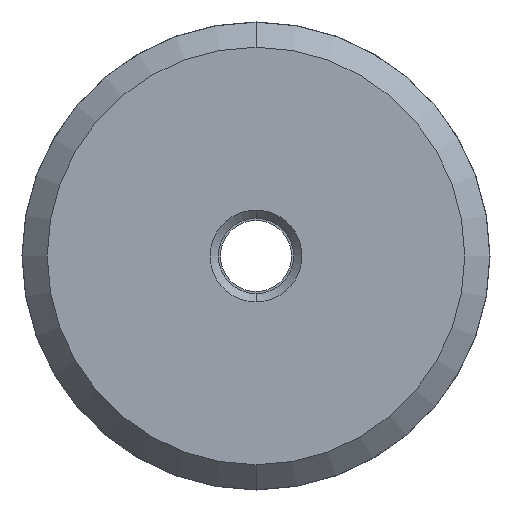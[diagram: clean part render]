
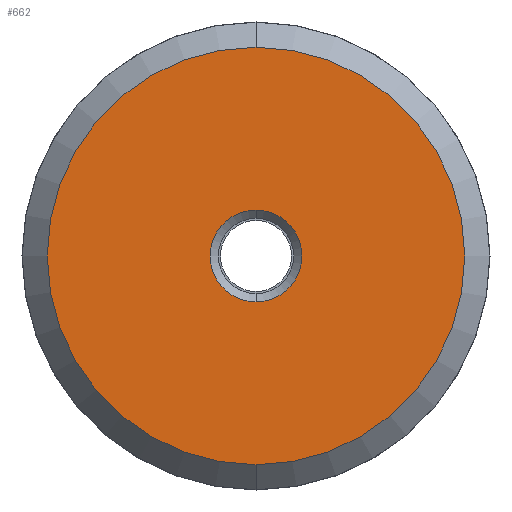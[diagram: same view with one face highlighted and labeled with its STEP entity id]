
A CAD part, front view. The second image highlights one B-rep face of the part: STEP entity #662.
In plain terms, the highlighted planar face has unit normal (0, -1, 0).
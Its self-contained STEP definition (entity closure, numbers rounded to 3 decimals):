
#558=CARTESIAN_POINT('Axis2P3D Location',(0.,0.,0.)) ;
#562=CARTESIAN_POINT('Vertex',(0.,0.,-24.975)) ;
#564=CARTESIAN_POINT('Vertex',(0.,0.,24.975)) ;
#589=CARTESIAN_POINT('Axis2P3D Location',(0.,0.,0.)) ;
#610=CARTESIAN_POINT('Vertex',(0.,0.,5.5)) ;
#617=CARTESIAN_POINT('Vertex',(0.,0.,-5.5)) ;
#620=CARTESIAN_POINT('Axis2P3D Location',(0.,0.,0.)) ;
#637=CARTESIAN_POINT('Axis2P3D Location',(0.,0.,0.)) ;
#649=CARTESIAN_POINT('Axis2P3D Location',(-16.125,0.,0.)) ;
#559=DIRECTION('Axis2P3D Direction',(0.,1.,0.)) ;
#590=DIRECTION('Axis2P3D Direction',(0.,1.,0.)) ;
#621=DIRECTION('Axis2P3D Direction',(0.,-1.,-0.)) ;
#638=DIRECTION('Axis2P3D Direction',(0.,-1.,-0.)) ;
#650=DIRECTION('Axis2P3D Direction',(0.,-1.,0.)) ;
#651=DIRECTION('Axis2P3D XDirection',(0.,0.,-1.)) ;
#560=AXIS2_PLACEMENT_3D('Circle Axis2P3D',#558,#559,$) ;
#591=AXIS2_PLACEMENT_3D('Circle Axis2P3D',#589,#590,$) ;
#622=AXIS2_PLACEMENT_3D('Circle Axis2P3D',#620,#621,$) ;
#639=AXIS2_PLACEMENT_3D('Circle Axis2P3D',#637,#638,$) ;
#652=AXIS2_PLACEMENT_3D('Plane Axis2P3D',#649,#650,#651) ;
#655=ORIENTED_EDGE('',*,*,#593,.T.) ;
#656=ORIENTED_EDGE('',*,*,#566,.T.) ;
#659=ORIENTED_EDGE('',*,*,#624,.F.) ;
#660=ORIENTED_EDGE('',*,*,#641,.F.) ;
#661=FACE_BOUND('',#658,.T.) ;
#662=ADVANCED_FACE('Rivoluzione1',(#657,#661),#653,.T.) ;
#561=CIRCLE('generated circle',#560,24.975) ;
#592=CIRCLE('generated circle',#591,24.975) ;
#623=CIRCLE('generated circle',#622,5.5) ;
#640=CIRCLE('generated circle',#639,5.5) ;
#566=EDGE_CURVE('',#563,#565,#561,.F.) ;
#593=EDGE_CURVE('',#565,#563,#592,.F.) ;
#624=EDGE_CURVE('',#618,#611,#623,.T.) ;
#641=EDGE_CURVE('',#611,#618,#640,.T.) ;
#654=EDGE_LOOP('',(#655,#656)) ;
#658=EDGE_LOOP('',(#659,#660)) ;
#657=FACE_OUTER_BOUND('',#654,.T.) ;
#653=PLANE('Plane',#652) ;
#563=VERTEX_POINT('',#562) ;
#565=VERTEX_POINT('',#564) ;
#611=VERTEX_POINT('',#610) ;
#618=VERTEX_POINT('',#617) ;
